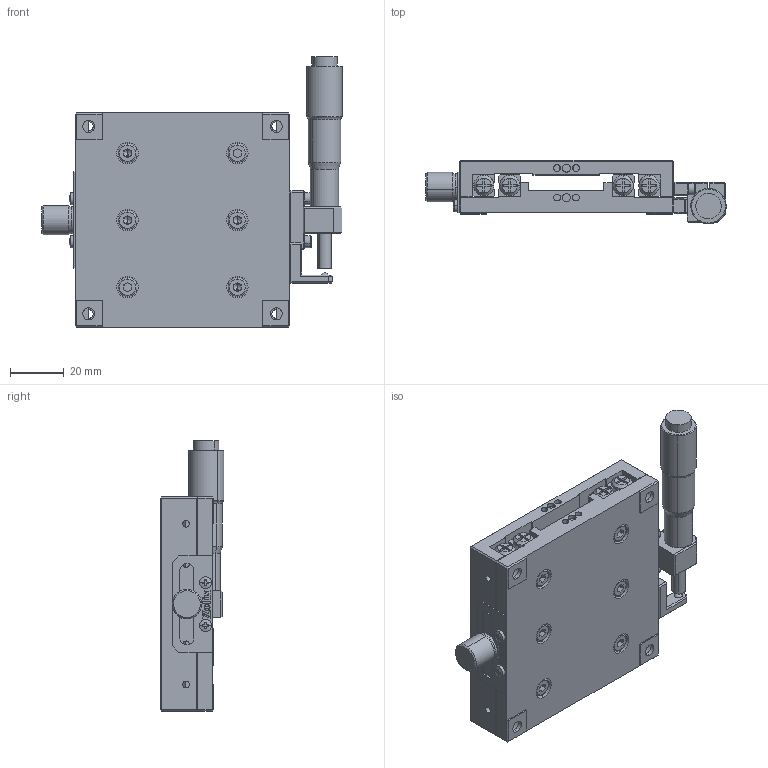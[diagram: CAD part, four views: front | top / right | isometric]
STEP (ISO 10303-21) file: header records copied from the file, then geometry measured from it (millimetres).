
FILE_DESCRIPTION (( 'STEP AP203' ), '1' );
FILE_NAME ('AK25A-8020RZ.step', '2019-05-08T06:40:20', ( '' ), ( '' ), 'SwSTEP 2.0', 'SolidWorks 2017', '' );
FILE_SCHEMA (( 'CONFIG_CONTROL_DESIGN' ));
Length unit declared in the file: millimetre
Products named in the file (1): AK25A-8020RZ
Bounding box: 112.11 x 23.81 x 101 mm (x, y, z)
Surface area: 47069 mm2 (no closed solid volume)
Topology: 0 solids, 36 shells, 782 faces, 2563 edges, 1735 vertices
Faces by surface type: plane 507, cylinder 179, cone 54, torus 36, sphere 6
Entity records: 27813 total; most frequent: CARTESIAN_POINT 5261, DIRECTION 4745, ORIENTED_EDGE 4236, EDGE_CURVE 2528, LINE 1761, VECTOR 1761, VERTEX_POINT 1732, AXIS2_PLACEMENT_3D 1492
